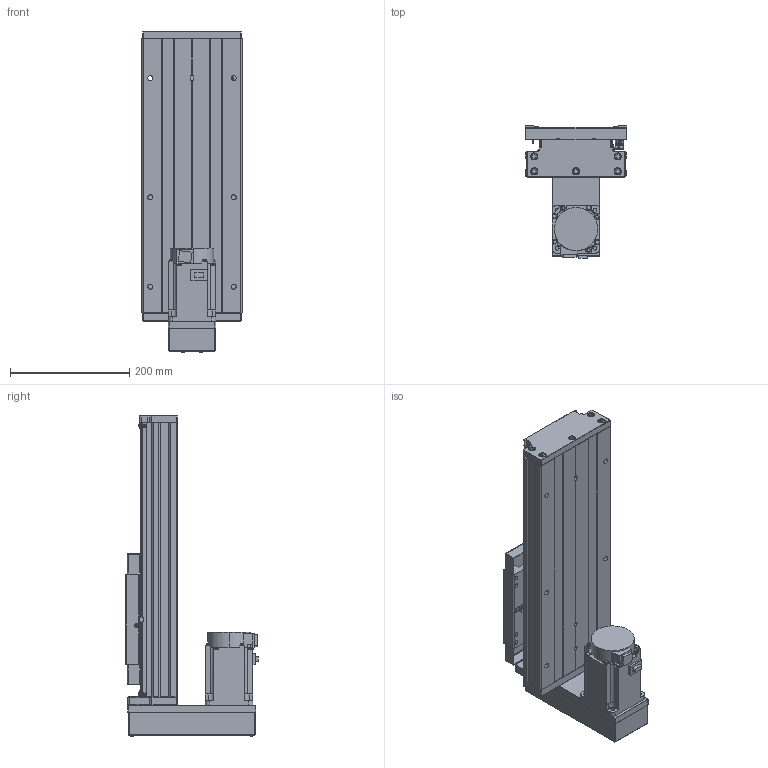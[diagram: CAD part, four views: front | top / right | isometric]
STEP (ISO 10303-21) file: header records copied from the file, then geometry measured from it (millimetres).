
FILE_DESCRIPTION (( 'STEP AP203' ), '1' );
FILE_NAME ('GTH17-200-BM-M75-C4.step', '2023-06-30T12:38:50', ( '微软用户' ), ( '微软中国' ), 'SwSTEP 2.0', 'SolidWorks 2020', '' );
FILE_SCHEMA (( 'CONFIG_CONTROL_DESIGN' ));
Length unit declared in the file: millimetre
Products named in the file (19): EE_SX911P_R; す晦芛蹟隊 M3℅5; GTH17-001_200; CTHA60-016; HG-KN73J-S100; GTH17-002_GTH17-002; GBT 70.1-M3℅5; GBT 70.2-M4¡Á45_M4¡Á35; GTH17-004; GBT77-2000 M3×3; GTH17-015-2_CTHA86-015-2; GTH17-005; GBT 70.1-M6¡Á20_M6¡Á20; GTH17-033; GB1155-6X6; GTH17-031; GTH17-200-BM-M75-C4; CTHA60-017; GBT 70.2-M3¡Á5_M3¡Á6
Assembly tree (58 placements, depth 2):
  GTH17-200-BM-M75-C4
    GTH17-001_200
    GTH17-002_GTH17-002
    GTH17-004
    GTH17-005
    GB1155-6X6  x2
    CTHA60-017  x3
    EE_SX911P_R  x3
    CTHA60-016  x2
    GBT 70.1-M3℅5  x6
    GBT77-2000 M3×3  x6
    GBT 70.1-M6¡Á20_M6¡Á20  x10
    GTH17-031
    GBT 70.2-M3¡Á5_M3¡Á6  x8
    す晦芛蹟隊 M3℅5  x6
    HG-KN73J-S100
    GBT 70.2-M4¡Á45_M4¡Á35  x4
    GTH17-015-2_CTHA86-015-2
    GTH17-033
Bounding box: 171 x 222.3 x 538.2 mm (x, y, z)
Volume: 5016501.2 mm3; surface area: 811699.8 mm2
Topology: 61 solids, 61 shells, 2419 faces, 5773 edges, 3571 vertices
Faces by surface type: plane 1304, cylinder 642, cone 297, torus 124, sphere 32, bspline 20
Entity records: 43814 total; most frequent: CARTESIAN_POINT 10216, DIRECTION 6301, ORIENTED_EDGE 6258, EDGE_CURVE 3129, AXIS2_PLACEMENT_3D 2134, VECTOR 2033, LINE 2033, VERTEX_POINT 1983
